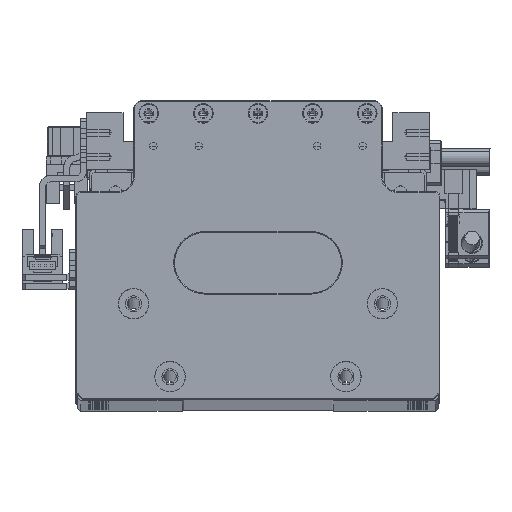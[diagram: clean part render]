
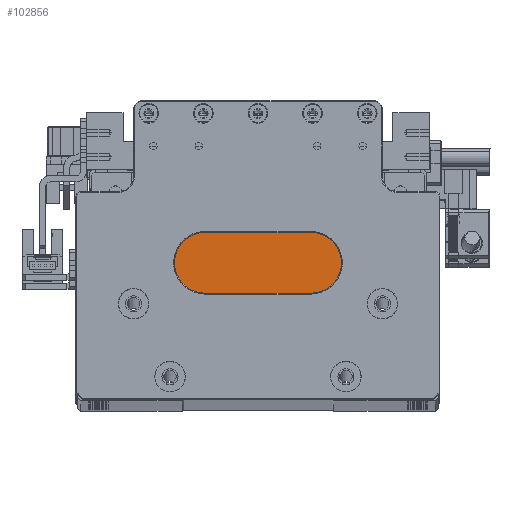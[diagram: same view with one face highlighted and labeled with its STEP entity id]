
A CAD part, top view. The second image highlights one B-rep face of the part: STEP entity #102856.
In plain terms, the highlighted planar face has unit normal (0, 0, 1).
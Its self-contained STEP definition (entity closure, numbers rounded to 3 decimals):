
#1453 = DIRECTION ( 'NONE',  ( 0., 0., -1. ) ) ;
#1583 = CARTESIAN_POINT ( 'NONE',  ( -34.432, -17.023, 375. ) ) ;
#2903 = CARTESIAN_POINT ( 'NONE',  ( -4.632, -17.023, 375. ) ) ;
#2918 = DIRECTION ( 'NONE',  ( -1., 0., 0. ) ) ;
#6663 = FACE_BOUND ( 'NONE', #94576, .T. ) ;
#7282 = ORIENTED_EDGE ( 'NONE', *, *, #114593, .T. ) ;
#7757 = EDGE_CURVE ( 'NONE', #126211, #79613, #57717, .T. ) ;
#12381 = VERTEX_POINT ( 'NONE', #65288 ) ;
#15493 = DIRECTION ( 'NONE',  ( 1., 0., 0. ) ) ;
#18493 = EDGE_CURVE ( 'NONE', #92062, #78340, #119005, .T. ) ;
#20132 = DIRECTION ( 'NONE',  ( 0., 1., 0. ) ) ;
#22126 = CARTESIAN_POINT ( 'NONE',  ( -23.132, -9.223, 375. ) ) ;
#24192 = CARTESIAN_POINT ( 'NONE',  ( 25.168, -49.223, 375. ) ) ;
#24260 = AXIS2_PLACEMENT_3D ( 'NONE', #92652, #30100, #103206 ) ;
#26031 = DIRECTION ( 'NONE',  ( 0., 0., -1. ) ) ;
#27809 = CARTESIAN_POINT ( 'NONE',  ( -10.882, -17.023, 375. ) ) ;
#27844 = FACE_OUTER_BOUND ( 'NONE', #85924, .T. ) ;
#29148 = LINE ( 'NONE', #56080, #47111 ) ;
#29902 = VECTOR ( 'NONE', #119932, 1000. ) ;
#30100 = DIRECTION ( 'NONE',  ( 0., 0., -1. ) ) ;
#31820 = CARTESIAN_POINT ( 'NONE',  ( -34.432, -9.023, 375. ) ) ;
#32571 = ORIENTED_EDGE ( 'NONE', *, *, #7757, .T. ) ;
#33704 = VERTEX_POINT ( 'NONE', #106031 ) ;
#35168 = VERTEX_POINT ( 'NONE', #37653 ) ;
#36637 = DIRECTION ( 'NONE',  ( 0., 0., -1. ) ) ;
#36887 = VECTOR ( 'NONE', #2918, 1000. ) ;
#37653 = CARTESIAN_POINT ( 'NONE',  ( 13.868, -17.023, 375. ) ) ;
#38617 = ORIENTED_EDGE ( 'NONE', *, *, #73670, .T. ) ;
#40599 = ORIENTED_EDGE ( 'NONE', *, *, #128693, .T. ) ;
#42303 = CIRCLE ( 'NONE', #83615, 1.25 ) ;
#42616 = DIRECTION ( 'NONE',  ( 1., 0., 0. ) ) ;
#45397 = EDGE_CURVE ( 'NONE', #115552, #35168, #76029, .T. ) ;
#45696 = EDGE_CURVE ( 'NONE', #35168, #33704, #129870, .T. ) ;
#47111 = VECTOR ( 'NONE', #129564, 1000. ) ;
#48234 = VECTOR ( 'NONE', #96929, 1000. ) ;
#50221 = VERTEX_POINT ( 'NONE', #71440 ) ;
#50273 = ORIENTED_EDGE ( 'NONE', *, *, #45696, .T. ) ;
#51103 = EDGE_CURVE ( 'NONE', #50221, #77698, #55381, .T. ) ;
#51513 = EDGE_CURVE ( 'NONE', #33704, #126211, #29148, .T. ) ;
#52102 = VECTOR ( 'NONE', #15493, 1000. ) ;
#54304 = CIRCLE ( 'NONE', #24260, 1.25 ) ;
#55381 = LINE ( 'NONE', #78091, #52102 ) ;
#56080 = CARTESIAN_POINT ( 'NONE',  ( -4.632, -9.223, 375. ) ) ;
#57022 = CARTESIAN_POINT ( 'NONE',  ( 25.168, -17.023, 375. ) ) ;
#57717 = LINE ( 'NONE', #130433, #29902 ) ;
#58695 = EDGE_CURVE ( 'NONE', #79613, #93023, #120232, .T. ) ;
#61703 = ORIENTED_EDGE ( 'NONE', *, *, #91680, .T. ) ;
#62383 = AXIS2_PLACEMENT_3D ( 'NONE', #88590, #26031, #99126 ) ;
#62386 = EDGE_LOOP ( 'NONE', ( #61703, #7282 ) ) ;
#64029 = CARTESIAN_POINT ( 'NONE',  ( 2.868, -17.023, 375. ) ) ;
#64893 = VERTEX_POINT ( 'NONE', #82169 ) ;
#65288 = CARTESIAN_POINT ( 'NONE',  ( 1.618, -17.023, 375. ) ) ;
#68548 = CARTESIAN_POINT ( 'NONE',  ( -23.132, -17.023, 375. ) ) ;
#71440 = CARTESIAN_POINT ( 'NONE',  ( -34.432, -49.223, 375. ) ) ;
#73387 = DIRECTION ( 'NONE',  ( 0., -1., 0. ) ) ;
#73670 = EDGE_CURVE ( 'NONE', #78340, #92062, #134108, .T. ) ;
#73672 = PLANE ( 'NONE',  #125645 ) ;
#74510 = DIRECTION ( 'NONE',  ( 1., 0., 0. ) ) ;
#75962 = CARTESIAN_POINT ( 'NONE',  ( -4.632, -17.023, 375. ) ) ;
#76029 = LINE ( 'NONE', #2903, #48234 ) ;
#77698 = VERTEX_POINT ( 'NONE', #24192 ) ;
#78091 = CARTESIAN_POINT ( 'NONE',  ( -34.632, -49.223, 375. ) ) ;
#78340 = VERTEX_POINT ( 'NONE', #129555 ) ;
#79003 = VECTOR ( 'NONE', #73387, 1000. ) ;
#79613 = VERTEX_POINT ( 'NONE', #68548 ) ;
#79633 = ORIENTED_EDGE ( 'NONE', *, *, #18493, .T. ) ;
#82169 = CARTESIAN_POINT ( 'NONE',  ( 4.118, -17.023, 375. ) ) ;
#83134 = ORIENTED_EDGE ( 'NONE', *, *, #96275, .T. ) ;
#83411 = FACE_BOUND ( 'NONE', #62386, .T. ) ;
#83615 = AXIS2_PLACEMENT_3D ( 'NONE', #64029, #1453, #74510 ) ;
#85924 = EDGE_LOOP ( 'NONE', ( #91386, #32571, #112313, #83134, #99426, #40599, #101013, #50273 ) ) ;
#88590 = CARTESIAN_POINT ( 'NONE',  ( -12.132, -17.023, 375. ) ) ;
#91386 = ORIENTED_EDGE ( 'NONE', *, *, #51513, .T. ) ;
#91680 = EDGE_CURVE ( 'NONE', #64893, #12381, #42303, .T. ) ;
#92062 = VERTEX_POINT ( 'NONE', #27809 ) ;
#92652 = CARTESIAN_POINT ( 'NONE',  ( 2.868, -17.023, 375. ) ) ;
#93023 = VERTEX_POINT ( 'NONE', #1583 ) ;
#94576 = EDGE_LOOP ( 'NONE', ( #79633, #38617 ) ) ;
#94666 = CARTESIAN_POINT ( 'NONE',  ( -4.632, -9.023, 375. ) ) ;
#96275 = EDGE_CURVE ( 'NONE', #93023, #50221, #106829, .T. ) ;
#96929 = DIRECTION ( 'NONE',  ( -1., 0., 0. ) ) ;
#99126 = DIRECTION ( 'NONE',  ( 1., 0., 0. ) ) ;
#99222 = CARTESIAN_POINT ( 'NONE',  ( -12.132, -17.023, 375. ) ) ;
#99426 = ORIENTED_EDGE ( 'NONE', *, *, #51103, .T. ) ;
#99841 = VECTOR ( 'NONE', #117542, 1000. ) ;
#101013 = ORIENTED_EDGE ( 'NONE', *, *, #45397, .T. ) ;
#102856 = ADVANCED_FACE ( 'NONE', ( #27844, #83411, #6663 ), #73672, .T. ) ;
#103206 = DIRECTION ( 'NONE',  ( 1., 0., 0. ) ) ;
#105229 = DIRECTION ( 'NONE',  ( 0., 0., 1. ) ) ;
#106031 = CARTESIAN_POINT ( 'NONE',  ( 13.868, -9.223, 375. ) ) ;
#106829 = LINE ( 'NONE', #31820, #79003 ) ;
#107058 = CARTESIAN_POINT ( 'NONE',  ( 25.168, -9.023, 375. ) ) ;
#109755 = DIRECTION ( 'NONE',  ( 1., 0., 0. ) ) ;
#111450 = AXIS2_PLACEMENT_3D ( 'NONE', #99222, #36637, #109755 ) ;
#112313 = ORIENTED_EDGE ( 'NONE', *, *, #58695, .T. ) ;
#114593 = EDGE_CURVE ( 'NONE', #12381, #64893, #54304, .T. ) ;
#115552 = VERTEX_POINT ( 'NONE', #57022 ) ;
#117542 = DIRECTION ( 'NONE',  ( 0., 1., 0. ) ) ;
#119005 = CIRCLE ( 'NONE', #111450, 1.25 ) ;
#119932 = DIRECTION ( 'NONE',  ( 0., -1., 0. ) ) ;
#120232 = LINE ( 'NONE', #75962, #36887 ) ;
#124282 = CARTESIAN_POINT ( 'NONE',  ( 13.868, -9.023, 375. ) ) ;
#124323 = LINE ( 'NONE', #107058, #99841 ) ;
#125645 = AXIS2_PLACEMENT_3D ( 'NONE', #94666, #105229, #42616 ) ;
#126211 = VERTEX_POINT ( 'NONE', #22126 ) ;
#128693 = EDGE_CURVE ( 'NONE', #77698, #115552, #124323, .T. ) ;
#129555 = CARTESIAN_POINT ( 'NONE',  ( -13.382, -17.023, 375. ) ) ;
#129564 = DIRECTION ( 'NONE',  ( -1., 0., 0. ) ) ;
#129870 = LINE ( 'NONE', #124282, #133126 ) ;
#130433 = CARTESIAN_POINT ( 'NONE',  ( -23.132, -9.023, 375. ) ) ;
#133126 = VECTOR ( 'NONE', #20132, 1000. ) ;
#134108 = CIRCLE ( 'NONE', #62383, 1.25 ) ;
